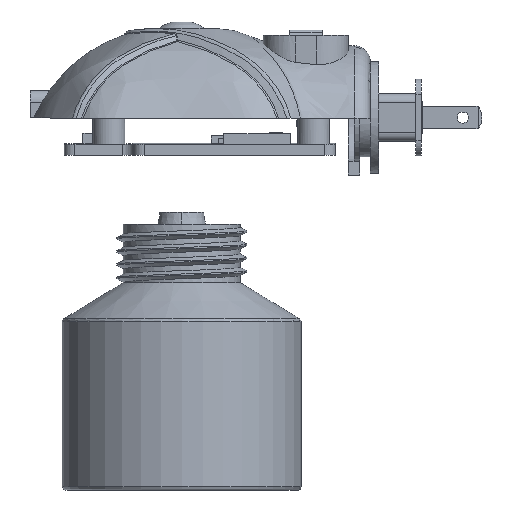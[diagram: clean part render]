
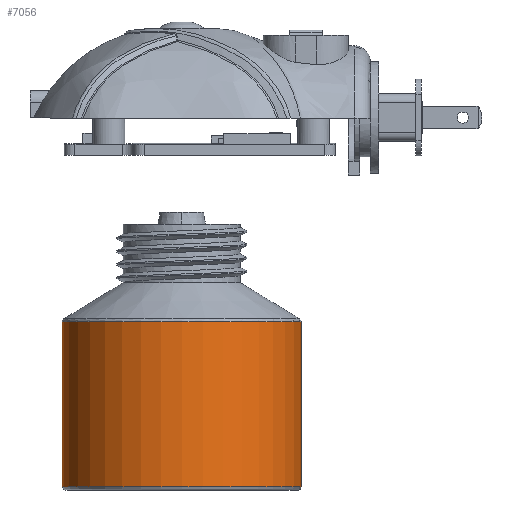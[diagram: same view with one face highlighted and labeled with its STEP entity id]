
A CAD part, left-side view. The second image highlights one B-rep face of the part: STEP entity #7056.
In plain terms, the highlighted cylindrical face has radius 22.5 mm (diameter 45 mm), a full revolution.
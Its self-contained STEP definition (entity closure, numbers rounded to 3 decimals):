
#5701=FACE_BOUND('',#10298,.T.);
#5702=FACE_BOUND('',#10299,.T.);
#5972=CYLINDRICAL_SURFACE('',#28321,22.5);
#6341=CIRCLE('',#28303,22.5);
#6344=CIRCLE('',#28307,22.5);
#7056=ADVANCED_FACE('',(#5701,#5702),#5972,.T.);
#10298=EDGE_LOOP('',(#13515));
#10299=EDGE_LOOP('',(#13516));
#13515=ORIENTED_EDGE('',*,*,#21508,.T.);
#13516=ORIENTED_EDGE('',*,*,#21511,.T.);
#18910=VERTEX_POINT('',#54110);
#18913=VERTEX_POINT('',#54117);
#21508=EDGE_CURVE('',#18910,#18910,#6341,.T.);
#21511=EDGE_CURVE('',#18913,#18913,#6344,.T.);
#28303=AXIS2_PLACEMENT_3D('',#54109,#31036,#31037);
#28307=AXIS2_PLACEMENT_3D('',#54116,#31044,#31045);
#28321=AXIS2_PLACEMENT_3D('',#54139,#31076,#31077);
#31036=DIRECTION('',(0.,0.,-1.));
#31037=DIRECTION('',(1.,0.,0.));
#31044=DIRECTION('',(0.,0.,1.));
#31045=DIRECTION('',(1.,0.,0.));
#31076=DIRECTION('',(0.,0.,-1.));
#31077=DIRECTION('',(-1.,0.,0.));
#54109=CARTESIAN_POINT('',(0.,3.599,-38.391));
#54110=CARTESIAN_POINT('',(22.5,3.599,-38.391));
#54116=CARTESIAN_POINT('',(0.,3.599,-69.454));
#54117=CARTESIAN_POINT('',(22.5,3.599,-69.454));
#54139=CARTESIAN_POINT('',(0.,3.599,-31.054));
